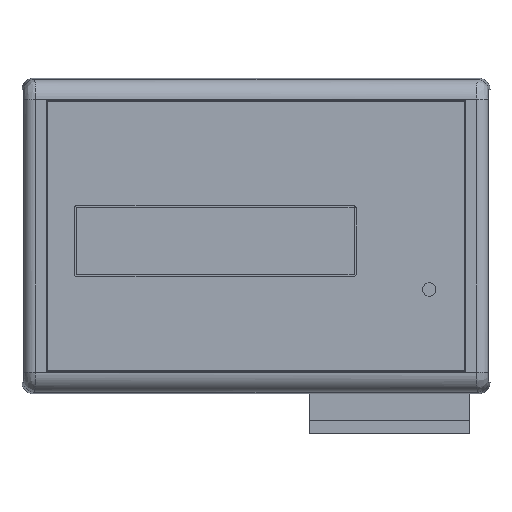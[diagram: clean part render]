
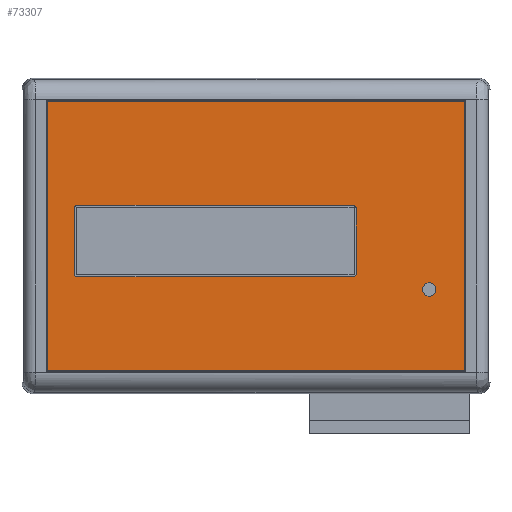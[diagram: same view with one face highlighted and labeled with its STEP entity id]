
A CAD part, top view. The second image highlights one B-rep face of the part: STEP entity #73307.
In plain terms, the highlighted planar face has unit normal (0, 0, 1) as drawn and (0, 0, -1) by its records, which use the part's own axes.
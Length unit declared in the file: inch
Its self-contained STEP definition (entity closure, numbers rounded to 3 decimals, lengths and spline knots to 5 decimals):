
#713 = CARTESIAN_POINT ( 'NONE',  ( 1.6838, 0.50159, -0.46654 ) ) ;
#714 = CARTESIAN_POINT ( 'NONE',  ( 1.5588, 0.50159, -0.46654 ) ) ;
#5231 = CARTESIAN_POINT ( 'NONE',  ( 0.93828, 0.34948, -0.46654 ) ) ;
#5234 = DIRECTION ( 'NONE',  ( 0., -1., 0. ) ) ;
#5237 = CARTESIAN_POINT ( 'NONE',  ( 1.6213, 0.50159, -0.46654 ) ) ;
#5240 = DIRECTION ( 'NONE',  ( 0., 0., -1. ) ) ;
#5242 = DIRECTION ( 'NONE',  ( -1., 0., 0. ) ) ;
#5244 = CARTESIAN_POINT ( 'NONE',  ( -1.66714, 0.38448, -0.46654 ) ) ;
#5247 = DIRECTION ( 'NONE',  ( 1., 0., 0. ) ) ;
#5250 = CARTESIAN_POINT ( 'NONE',  ( 0.90328, -0.25244, -0.46654 ) ) ;
#5252 = DIRECTION ( 'NONE',  ( 0., 0., -1. ) ) ;
#5255 = DIRECTION ( 'NONE',  ( -1., 0., 0. ) ) ;
#5261 = CARTESIAN_POINT ( 'NONE',  ( -1.70214, -0.25244, -0.46654 ) ) ;
#5265 = DIRECTION ( 'NONE',  ( 0., 1., 0. ) ) ;
#5268 = CARTESIAN_POINT ( 'NONE',  ( 0.90328, 0.34948, -0.46654 ) ) ;
#5270 = DIRECTION ( 'NONE',  ( 0., 0., -1. ) ) ;
#5273 = DIRECTION ( 'NONE',  ( -1., 0., 0. ) ) ;
#5276 = CARTESIAN_POINT ( 'NONE',  ( 0.90328, -0.28744, -0.46654 ) ) ;
#5278 = DIRECTION ( 'NONE',  ( -1., 0., 0. ) ) ;
#5280 = CARTESIAN_POINT ( 'NONE',  ( -1.66714, 0.34948, -0.46654 ) ) ;
#5281 = DIRECTION ( 'NONE',  ( 0., 0., -1. ) ) ;
#5283 = DIRECTION ( 'NONE',  ( -1., 0., 0. ) ) ;
#5288 = CARTESIAN_POINT ( 'NONE',  ( 1.95276, -1.25984, -0.46654 ) ) ;
#5290 = CARTESIAN_POINT ( 'NONE',  ( -1.66714, -0.25244, -0.46654 ) ) ;
#5291 = DIRECTION ( 'NONE',  ( 0., 0., -1. ) ) ;
#5293 = DIRECTION ( 'NONE',  ( -1., 0., 0. ) ) ;
#5296 = CARTESIAN_POINT ( 'NONE',  ( 1.95276, 1.25984, -0.46654 ) ) ;
#5298 = DIRECTION ( 'NONE',  ( 0., -1., 0. ) ) ;
#5300 = DIRECTION ( 'NONE',  ( -1., 0., 0. ) ) ;
#5303 = CARTESIAN_POINT ( 'NONE',  ( -1.95276, -1.25984, -0.46654 ) ) ;
#5306 = DIRECTION ( 'NONE',  ( 0., 1., 0. ) ) ;
#5307 = CARTESIAN_POINT ( 'NONE',  ( -1.95276, 1.25984, -0.46654 ) ) ;
#5309 = DIRECTION ( 'NONE',  ( 1., 0., 0. ) ) ;
#10548 = CARTESIAN_POINT ( 'NONE',  ( 0.93828, 0.34948, -0.46654 ) ) ;
#10549 = CARTESIAN_POINT ( 'NONE',  ( 0.90328, -0.28744, -0.46654 ) ) ;
#10550 = CARTESIAN_POINT ( 'NONE',  ( -1.70214, -0.25244, -0.46654 ) ) ;
#10551 = CARTESIAN_POINT ( 'NONE',  ( -1.70214, 0.34948, -0.46654 ) ) ;
#10552 = CARTESIAN_POINT ( 'NONE',  ( 0.93828, -0.25244, -0.46654 ) ) ;
#10553 = CARTESIAN_POINT ( 'NONE',  ( -1.66714, 0.38448, -0.46654 ) ) ;
#10555 = CARTESIAN_POINT ( 'NONE',  ( 0.90328, 0.38448, -0.46654 ) ) ;
#10556 = CARTESIAN_POINT ( 'NONE',  ( -1.66714, -0.28744, -0.46654 ) ) ;
#10557 = CARTESIAN_POINT ( 'NONE',  ( 1.95276, 1.25984, -0.46654 ) ) ;
#10561 = CARTESIAN_POINT ( 'NONE',  ( 1.95276, -1.25984, -0.46654 ) ) ;
#10563 = CARTESIAN_POINT ( 'NONE',  ( -1.95276, -1.25984, -0.46654 ) ) ;
#10564 = CARTESIAN_POINT ( 'NONE',  ( -1.95276, 1.25984, -0.46654 ) ) ;
#11327 = DIRECTION ( 'NONE',  ( 0., 0., -1. ) ) ;
#11331 = CARTESIAN_POINT ( 'NONE',  ( 0., 0., -0.46654 ) ) ;
#11336 = PLANE ( 'NONE',  #43713 ) ;
#11338 = DIRECTION ( 'NONE',  ( -1., 0., 0. ) ) ;
#11864 = FACE_BOUND ( 'NONE', #56187, .T. ) ;
#11866 = FACE_OUTER_BOUND ( 'NONE', #56189, .T. ) ;
#11876 = FACE_BOUND ( 'NONE', #56200, .T. ) ;
#43531 = AXIS2_PLACEMENT_3D ( 'NONE', #98948, #98949, #98950 ) ;
#43613 = AXIS2_PLACEMENT_3D ( 'NONE', #5237, #5240, #5242 ) ;
#43614 = AXIS2_PLACEMENT_3D ( 'NONE', #5250, #5252, #5255 ) ;
#43615 = AXIS2_PLACEMENT_3D ( 'NONE', #5268, #5270, #5273 ) ;
#43616 = AXIS2_PLACEMENT_3D ( 'NONE', #5280, #5281, #5283 ) ;
#43617 = AXIS2_PLACEMENT_3D ( 'NONE', #5290, #5291, #5293 ) ;
#43713 = AXIS2_PLACEMENT_3D ( 'NONE', #11331, #11327, #11338 ) ;
#56187 = EDGE_LOOP ( 'NONE', ( #72935, #72936 ) ) ;
#56189 = EDGE_LOOP ( 'NONE', ( #72945, #72946, #72947, #72948 ) ) ;
#56200 = EDGE_LOOP ( 'NONE', ( #72937, #72938, #72939, #72940, #72941, #72942, #72943, #72944 ) ) ;
#64338 = EDGE_CURVE ( 'NONE', #69789, #69790, #97640, .T. ) ;
#69789 = VERTEX_POINT ( 'NONE', #713 ) ;
#69790 = VERTEX_POINT ( 'NONE', #714 ) ;
#70043 = EDGE_CURVE ( 'NONE', #69790, #69789, #98107, .T. ) ;
#70044 = EDGE_CURVE ( 'NONE', #72864, #72868, #98108, .T. ) ;
#70045 = EDGE_CURVE ( 'NONE', #72866, #72864, #98109, .T. ) ;
#70046 = EDGE_CURVE ( 'NONE', #72869, #72866, #98110, .T. ) ;
#70047 = EDGE_CURVE ( 'NONE', #72865, #72869, #98112, .T. ) ;
#70048 = EDGE_CURVE ( 'NONE', #72863, #72865, #98113, .T. ) ;
#70049 = EDGE_CURVE ( 'NONE', #72870, #72863, #98115, .T. ) ;
#70050 = EDGE_CURVE ( 'NONE', #72871, #72870, #98116, .T. ) ;
#70051 = EDGE_CURVE ( 'NONE', #72868, #72871, #98118, .T. ) ;
#70052 = EDGE_CURVE ( 'NONE', #72872, #72876, #98119, .T. ) ;
#70053 = EDGE_CURVE ( 'NONE', #72876, #72878, #98101, .T. ) ;
#70054 = EDGE_CURVE ( 'NONE', #72878, #72879, #98123, .T. ) ;
#70055 = EDGE_CURVE ( 'NONE', #72879, #72872, #98125, .T. ) ;
#72863 = VERTEX_POINT ( 'NONE', #10551 ) ;
#72864 = VERTEX_POINT ( 'NONE', #10552 ) ;
#72865 = VERTEX_POINT ( 'NONE', #10553 ) ;
#72866 = VERTEX_POINT ( 'NONE', #10548 ) ;
#72868 = VERTEX_POINT ( 'NONE', #10549 ) ;
#72869 = VERTEX_POINT ( 'NONE', #10555 ) ;
#72870 = VERTEX_POINT ( 'NONE', #10550 ) ;
#72871 = VERTEX_POINT ( 'NONE', #10556 ) ;
#72872 = VERTEX_POINT ( 'NONE', #10557 ) ;
#72876 = VERTEX_POINT ( 'NONE', #10561 ) ;
#72878 = VERTEX_POINT ( 'NONE', #10563 ) ;
#72879 = VERTEX_POINT ( 'NONE', #10564 ) ;
#72935 = ORIENTED_EDGE ( 'NONE', *, *, #70043, .F. ) ;
#72936 = ORIENTED_EDGE ( 'NONE', *, *, #64338, .F. ) ;
#72937 = ORIENTED_EDGE ( 'NONE', *, *, #70044, .F. ) ;
#72938 = ORIENTED_EDGE ( 'NONE', *, *, #70045, .F. ) ;
#72939 = ORIENTED_EDGE ( 'NONE', *, *, #70046, .F. ) ;
#72940 = ORIENTED_EDGE ( 'NONE', *, *, #70047, .F. ) ;
#72941 = ORIENTED_EDGE ( 'NONE', *, *, #70048, .F. ) ;
#72942 = ORIENTED_EDGE ( 'NONE', *, *, #70049, .F. ) ;
#72943 = ORIENTED_EDGE ( 'NONE', *, *, #70050, .F. ) ;
#72944 = ORIENTED_EDGE ( 'NONE', *, *, #70051, .F. ) ;
#72945 = ORIENTED_EDGE ( 'NONE', *, *, #70052, .T. ) ;
#72946 = ORIENTED_EDGE ( 'NONE', *, *, #70053, .T. ) ;
#72947 = ORIENTED_EDGE ( 'NONE', *, *, #70054, .T. ) ;
#72948 = ORIENTED_EDGE ( 'NONE', *, *, #70055, .T. ) ;
#73307 = ADVANCED_FACE ( 'NONE', ( #11864, #11876, #11866 ), #11336, .T. ) ;
#97640 = CIRCLE ( 'NONE', #43531, 0.0625 ) ;
#98101 = LINE ( 'NONE', #5288, #98124 ) ;
#98107 = CIRCLE ( 'NONE', #43613, 0.0625 ) ;
#98108 = CIRCLE ( 'NONE', #43614, 0.035 ) ;
#98109 = LINE ( 'NONE', #5231, #98111 ) ;
#98110 = CIRCLE ( 'NONE', #43615, 0.035 ) ;
#98111 = VECTOR ( 'NONE', #5234, 39.37008 ) ;
#98112 = LINE ( 'NONE', #5244, #98114 ) ;
#98113 = CIRCLE ( 'NONE', #43616, 0.035 ) ;
#98114 = VECTOR ( 'NONE', #5247, 39.37008 ) ;
#98115 = LINE ( 'NONE', #5261, #98117 ) ;
#98116 = CIRCLE ( 'NONE', #43617, 0.035 ) ;
#98117 = VECTOR ( 'NONE', #5265, 39.37008 ) ;
#98118 = LINE ( 'NONE', #5276, #98120 ) ;
#98119 = LINE ( 'NONE', #5296, #98122 ) ;
#98120 = VECTOR ( 'NONE', #5278, 39.37008 ) ;
#98122 = VECTOR ( 'NONE', #5298, 39.37008 ) ;
#98123 = LINE ( 'NONE', #5303, #98126 ) ;
#98124 = VECTOR ( 'NONE', #5300, 39.37008 ) ;
#98125 = LINE ( 'NONE', #5307, #98128 ) ;
#98126 = VECTOR ( 'NONE', #5306, 39.37008 ) ;
#98128 = VECTOR ( 'NONE', #5309, 39.37008 ) ;
#98948 = CARTESIAN_POINT ( 'NONE',  ( 1.6213, 0.50159, -0.46654 ) ) ;
#98949 = DIRECTION ( 'NONE',  ( 0., 0., -1. ) ) ;
#98950 = DIRECTION ( 'NONE',  ( -1., 0., 0. ) ) ;
